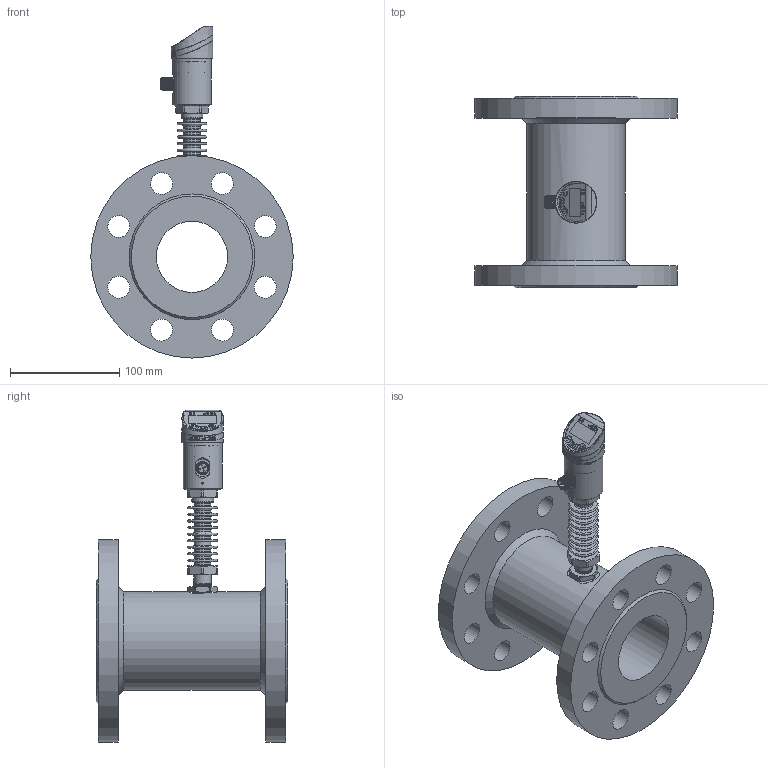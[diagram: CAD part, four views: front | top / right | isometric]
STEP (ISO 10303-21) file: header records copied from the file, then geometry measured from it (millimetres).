
FILE_DESCRIPTION( (''), '2;1');
FILE_NAME( 'QTKE_DN65_flange_high-temp.step', '2024-10-14T15:53:02+08:00', (''), (''), '', '', '');
FILE_SCHEMA (('AUTOMOTIVE_DESIGN { 1 0 10303 214 3 1 1 1 }'));
Length unit declared in the file: millimetre
Products named in the file (1): QTKE DN65_flange_high-temp
Bounding box: 185 x 175 x 303.5 mm (x, y, z)
Volume: 1243553.6 mm3; surface area: 234638 mm2
Topology: 5 solids, 5 shells, 1002 faces, 2571 edges, 1672 vertices
Faces by surface type: plane 403, cylinder 186, extrusion 160, cone 111, bspline 61, torus 60, sphere 21
Full cylindrical faces by diameter (mm): 1.689 x1, 2 x1, 2.7 x6, 3.5 x5, 12 x1, 13 x1, 15 x10, 15.9 x1, 16.5 x1, 20 x17, 23 x3, 26 x5, 31.7 x1, 32 x1, 34 x1, 34.2 x1, 35.5 x2, 65 x1, 90 x1, 185 x2
Entity records: 44488 total; most frequent: CARTESIAN_POINT 17404, ORIENTED_EDGE 4714, DIRECTION 4154, EDGE_CURVE 2357, VERTEX_POINT 1609, AXIS2_PLACEMENT_3D 1496, EDGE_LOOP 1288, VECTOR 1162
